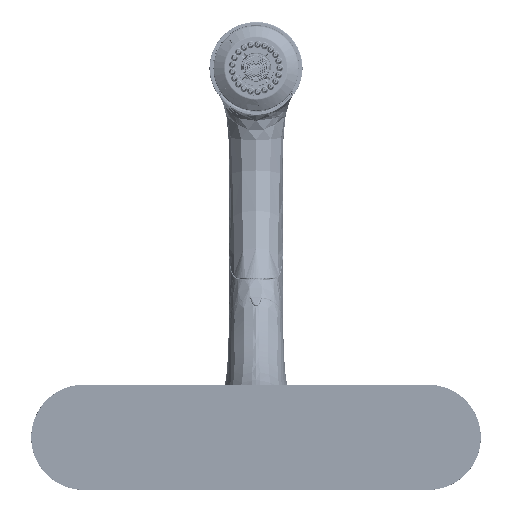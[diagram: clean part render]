
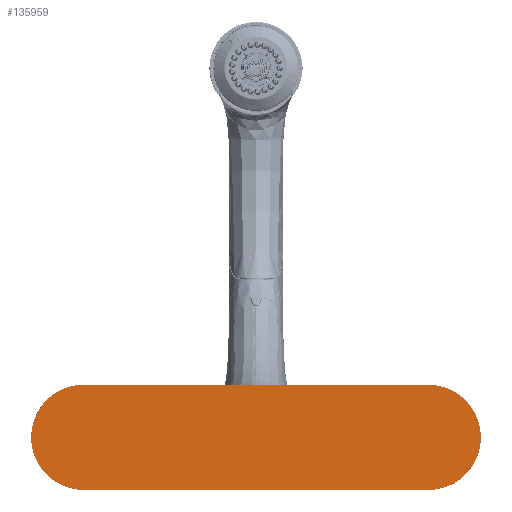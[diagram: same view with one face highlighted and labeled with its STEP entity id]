
A CAD part, front view. The second image highlights one B-rep face of the part: STEP entity #135959.
In plain terms, the highlighted planar face has unit normal (0, -1, 0).
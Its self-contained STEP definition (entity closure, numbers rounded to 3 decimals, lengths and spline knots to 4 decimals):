
#11226 = DIRECTION ( 'NONE',  ( 0., 1., 0. ) ) ;
#11614 = CARTESIAN_POINT ( 'NONE',  ( 3.9866, -0.778, 1.2164 ) ) ;
#41376 = DIRECTION ( 'NONE',  ( -1., 0., 0. ) ) ;
#49023 = DIRECTION ( 'NONE',  ( 0., -1., 0. ) ) ;
#51174 = VERTEX_POINT ( 'NONE', #241690 ) ;
#56894 = CARTESIAN_POINT ( 'NONE',  ( -3.9866, -0.778, 1.2174 ) ) ;
#57041 = CARTESIAN_POINT ( 'NONE',  ( 3.9866, -0.778, -1.2184 ) ) ;
#64504 = CARTESIAN_POINT ( 'NONE',  ( -3.9866, -0.778, 1.2174 ) ) ;
#87658 = CARTESIAN_POINT ( 'NONE',  ( 3.9864, -0.778, -0.001 ) ) ;
#116614 = AXIS2_PLACEMENT_3D ( 'NONE', #87658, #206886, #403824 ) ;
#116977 = CIRCLE ( 'NONE', #116614, 1.2174 ) ;
#120026 = EDGE_CURVE ( 'NONE', #454689, #51174, #205572, .T. ) ;
#121661 = LINE ( 'NONE', #235758, #397091 ) ;
#135959 = ADVANCED_FACE ( 'NONE', ( #433824 ), #361160, .F. ) ;
#178627 = DIRECTION ( 'NONE',  ( -1., 0., 0. ) ) ;
#188572 = EDGE_LOOP ( 'NONE', ( #410710, #278888, #196642, #264750, #397909 ) ) ;
#188948 = EDGE_CURVE ( 'NONE', #314251, #411513, #116977, .T. ) ;
#196642 = ORIENTED_EDGE ( 'NONE', *, *, #329488, .T. ) ;
#205572 = CIRCLE ( 'NONE', #280290, 1.2169 ) ;
#206886 = DIRECTION ( 'NONE',  ( 0., -1., 0. ) ) ;
#215300 = VECTOR ( 'NONE', #500036, 39.3701 ) ;
#232222 = CARTESIAN_POINT ( 'NONE',  ( 3.9866, -0.778, -1.2184 ) ) ;
#235758 = CARTESIAN_POINT ( 'NONE',  ( -1.25, -0.778, 1.2171 ) ) ;
#241690 = CARTESIAN_POINT ( 'NONE',  ( -3.9866, -0.778, -1.2164 ) ) ;
#261079 = AXIS2_PLACEMENT_3D ( 'NONE', #327391, #11226, #358627 ) ;
#264750 = ORIENTED_EDGE ( 'NONE', *, *, #188948, .T. ) ;
#278469 = EDGE_CURVE ( 'NONE', #411513, #305790, #121661, .T. ) ;
#278888 = ORIENTED_EDGE ( 'NONE', *, *, #120026, .T. ) ;
#280290 = AXIS2_PLACEMENT_3D ( 'NONE', #401502, #49023, #398960 ) ;
#287115 = VECTOR ( 'NONE', #178627, 39.3701 ) ;
#302890 = LINE ( 'NONE', #64504, #287115 ) ;
#305790 = VERTEX_POINT ( 'NONE', #488467 ) ;
#314251 = VERTEX_POINT ( 'NONE', #232222 ) ;
#327391 = CARTESIAN_POINT ( 'NONE',  ( 3.9864, -0.778, -0.001 ) ) ;
#329488 = EDGE_CURVE ( 'NONE', #51174, #314251, #453510, .T. ) ;
#358627 = DIRECTION ( 'NONE',  ( 0., 0., 1. ) ) ;
#361160 = PLANE ( 'NONE',  #261079 ) ;
#397091 = VECTOR ( 'NONE', #41376, 39.3701 ) ;
#397909 = ORIENTED_EDGE ( 'NONE', *, *, #278469, .T. ) ;
#398960 = DIRECTION ( 'NONE',  ( 0., 0., 1. ) ) ;
#401502 = CARTESIAN_POINT ( 'NONE',  ( -3.9863, -0.778, 0.0005 ) ) ;
#403824 = DIRECTION ( 'NONE',  ( 0., 0., 1. ) ) ;
#410710 = ORIENTED_EDGE ( 'NONE', *, *, #468955, .T. ) ;
#411513 = VERTEX_POINT ( 'NONE', #11614 ) ;
#433824 = FACE_OUTER_BOUND ( 'NONE', #188572, .T. ) ;
#453510 = LINE ( 'NONE', #57041, #215300 ) ;
#454689 = VERTEX_POINT ( 'NONE', #56894 ) ;
#468955 = EDGE_CURVE ( 'NONE', #305790, #454689, #302890, .T. ) ;
#488467 = CARTESIAN_POINT ( 'NONE',  ( -1.25, -0.778, 1.2171 ) ) ;
#500036 = DIRECTION ( 'NONE',  ( 1., 0., 0. ) ) ;
